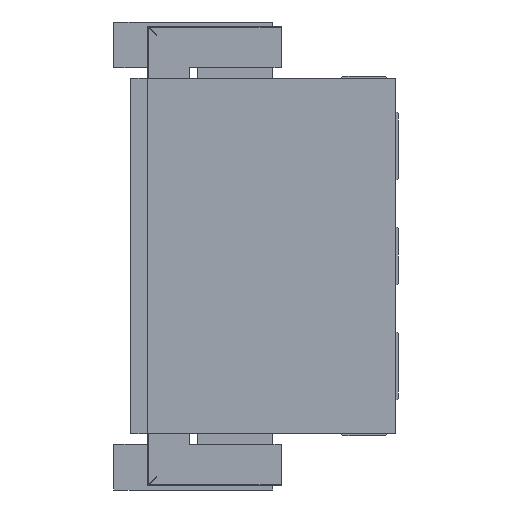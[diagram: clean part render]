
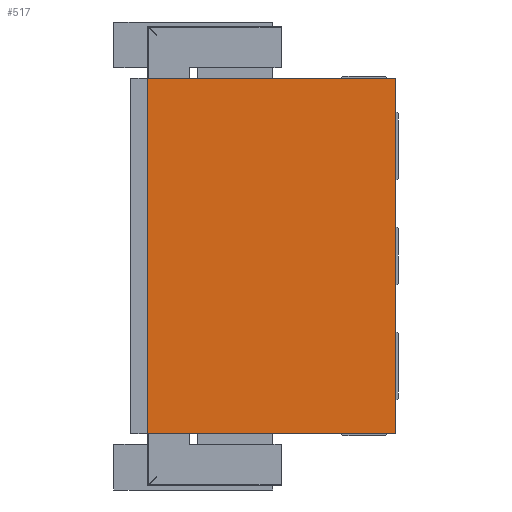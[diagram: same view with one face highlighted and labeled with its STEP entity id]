
A CAD part, left-side view. The second image highlights one B-rep face of the part: STEP entity #517.
In plain terms, the highlighted planar face has unit normal (-1, 0, 0).
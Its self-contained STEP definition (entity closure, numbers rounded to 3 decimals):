
#517 = ADVANCED_FACE( '', ( #2898 ), #2899, .F. );
#2898 = FACE_OUTER_BOUND( '', #7321, .T. );
#2899 = PLANE( '', #7322 );
#7321 = EDGE_LOOP( '', ( #12870, #12871, #12872, #12873 ) );
#7322 = AXIS2_PLACEMENT_3D( '', #12874, #12875, #12876 );
#12870 = ORIENTED_EDGE( '', *, *, #30102, .F. );
#12871 = ORIENTED_EDGE( '', *, *, #30111, .F. );
#12872 = ORIENTED_EDGE( '', *, *, #30108, .F. );
#12873 = ORIENTED_EDGE( '', *, *, #30106, .F. );
#12874 = CARTESIAN_POINT( '', ( -13., 0., 0. ) );
#12875 = DIRECTION( '', ( 1., 0., 0. ) );
#12876 = DIRECTION( '', ( 0., 0., -1. ) );
#30102 = EDGE_CURVE( '', #36411, #36412, #36413, .T. );
#30106 = EDGE_CURVE( '', #36412, #36417, #36418, .T. );
#30108 = EDGE_CURVE( '', #36417, #36420, #36421, .T. );
#30111 = EDGE_CURVE( '', #36420, #36411, #36424, .T. );
#36411 = VERTEX_POINT( '', #46550 );
#36412 = VERTEX_POINT( '', #46551 );
#36413 = LINE( '', #46552, #46553 );
#36417 = VERTEX_POINT( '', #46560 );
#36418 = LINE( '', #46561, #46562 );
#36420 = VERTEX_POINT( '', #46565 );
#36421 = LINE( '', #46566, #46567 );
#36424 = LINE( '', #46572, #46573 );
#46550 = CARTESIAN_POINT( '', ( -13., -31.5, -42.5 ) );
#46551 = CARTESIAN_POINT( '', ( -13., 28., -42.5 ) );
#46552 = CARTESIAN_POINT( '', ( -13., -31.5, -42.5 ) );
#46553 = VECTOR( '', #61184, 1. );
#46560 = CARTESIAN_POINT( '', ( -13., 28., 42.5 ) );
#46561 = CARTESIAN_POINT( '', ( -13., 28., -42.5 ) );
#46562 = VECTOR( '', #61188, 1. );
#46565 = CARTESIAN_POINT( '', ( -13., -31.5, 42.5 ) );
#46566 = CARTESIAN_POINT( '', ( -13., 28., 42.5 ) );
#46567 = VECTOR( '', #61190, 1. );
#46572 = CARTESIAN_POINT( '', ( -13., -31.5, 42.5 ) );
#46573 = VECTOR( '', #61193, 1. );
#61184 = DIRECTION( '', ( 0., 1., 0. ) );
#61188 = DIRECTION( '', ( 0., 0., 1. ) );
#61190 = DIRECTION( '', ( 0., -1., 0. ) );
#61193 = DIRECTION( '', ( 0., 0., -1. ) );
